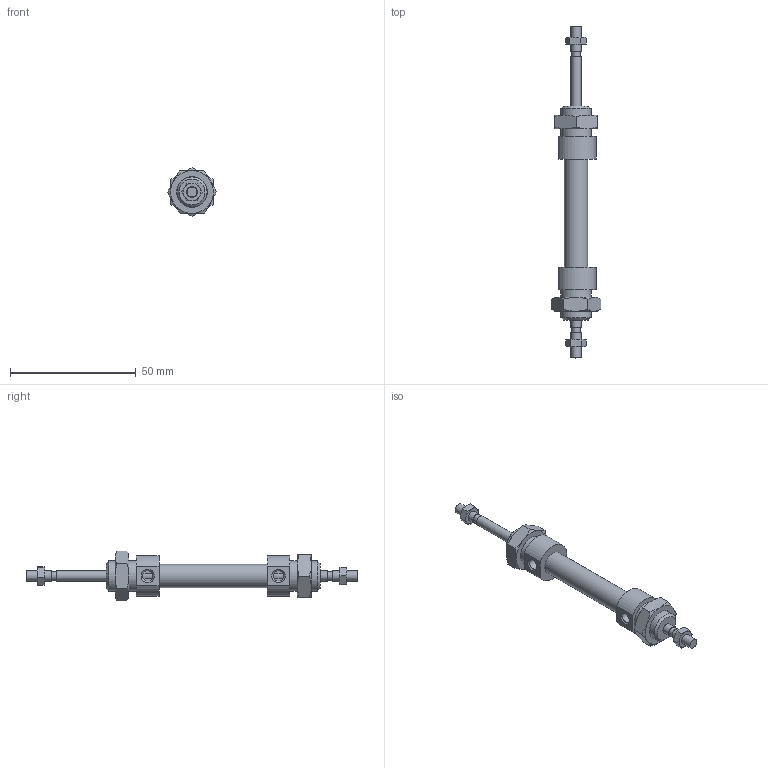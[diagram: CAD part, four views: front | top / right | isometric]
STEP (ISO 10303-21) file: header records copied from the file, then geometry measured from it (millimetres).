
FILE_DESCRIPTION((''),'2;1');
FILE_NAME('I:\Area Tecnica\Disegni\VARIE-3D\Componenti\1280\1282_##_####_#\1282_08_0015.iam.stp','2009-06-03T15:23:11',(''),(''),'Autodesk Inventor 2010','Autodesk Inventor 2010','');
FILE_SCHEMA(('AUTOMOTIVE_DESIGN { 1 0 10303 214 1 1 1 1 }'));
Length unit declared in the file: millimetre
Products named in the file (5): 1282_08_0015; C1282_08_15; S1282_08_15; 1200_08_05; 1200_08_06
Assembly tree (6 placements, depth 2):
  1282_08_0015
    C1282_08_15
    S1282_08_15
    1200_08_05  x2
    1200_08_06  x2
Bounding box: 19.63 x 132 x 19.63 mm (x, y, z)
Volume: 11393.2 mm3; surface area: 8366.7 mm2
Topology: 6 solids, 6 shells, 127 faces, 271 edges, 162 vertices
Faces by surface type: cone 52, plane 46, bspline 18, cylinder 11
Full cylindrical faces by diameter (mm): 3.5 x2, 4 x4, 9.2 x1, 12 x2
Entity records: 2371 total; most frequent: CARTESIAN_POINT 641, DIRECTION 310, ORIENTED_EDGE 280, AXIS2_PLACEMENT_3D 143, EDGE_CURVE 140, EDGE_LOOP 120, VERTEX_POINT 96, STYLED_ITEM 85
